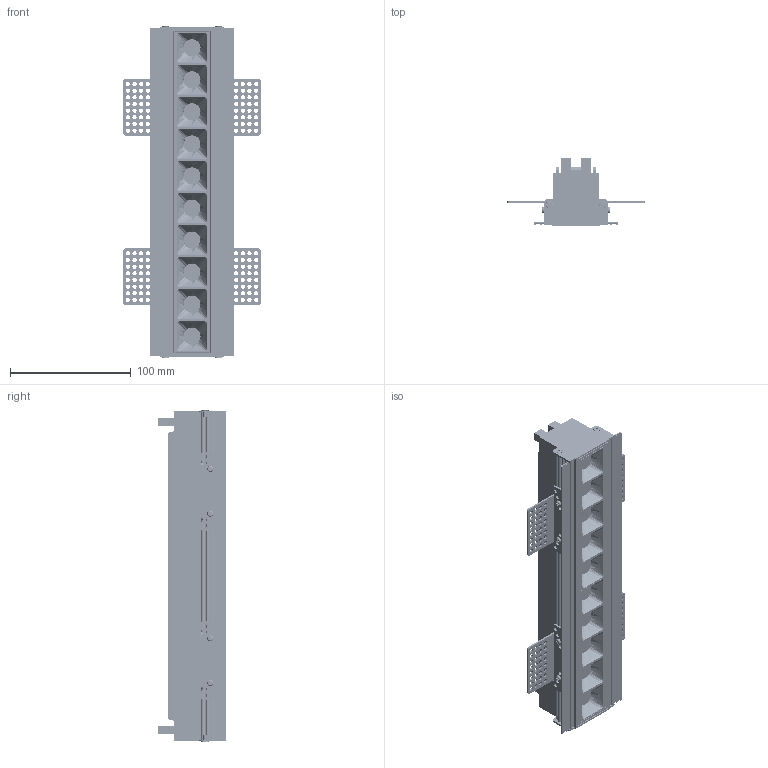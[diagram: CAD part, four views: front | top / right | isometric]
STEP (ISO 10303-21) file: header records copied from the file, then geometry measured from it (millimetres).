
FILE_DESCRIPTION(/* description */ (''),/* implementation_level */ '2;1');
FILE_NAME(/* name */ '010180B10.stp',/* time_stamp */ '2020-01-11T08:13:10+08:00',/* author */ (''),/* organization */ (''),/* preprocessor_version */ 'ST-DEVELOPER v14',/* originating_system */ 'SIEMENS PLM Software NX 8.0',/* authorisation */ '');
FILE_SCHEMA (('AUTOMOTIVE_DESIGN { 1 0 10303 214 3 1 1 1 }'));
Products named in the file (1): Admi15C80392x1g6
Bounding box: 113.7 x 56.5 x 274.5 mm (x, y, z)
Volume: 279844.9 mm3; surface area: 290113.7 mm2
Topology: 38 solids, 38 shells, 5245 faces, 14945 edges, 9946 vertices
Faces by surface type: bspline 2424, plane 1845, cylinder 617, cone 247, torus 72, revolution 40
Full cylindrical faces by diameter (mm): 2 x4, 2.1 x12, 2.3 x4, 2.5 x6, 2.6 x1, 3 x20, 3.2 x32, 3.5 x128, 3.65 x4, 4 x4, 5 x8, 5.5 x6, 5.9 x4, 14.1 x10
Entity records: 330968 total; most frequent: CARTESIAN_POINT 189254, ORIENTED_EDGE 28576, EDGE_CURVE 14288, DIRECTION 13743, VERTEX_POINT 9780, B_SPLINE_CURVE_WITH_KNOTS 7874, EDGE_LOOP 6451, ADVANCED_FACE 5245
